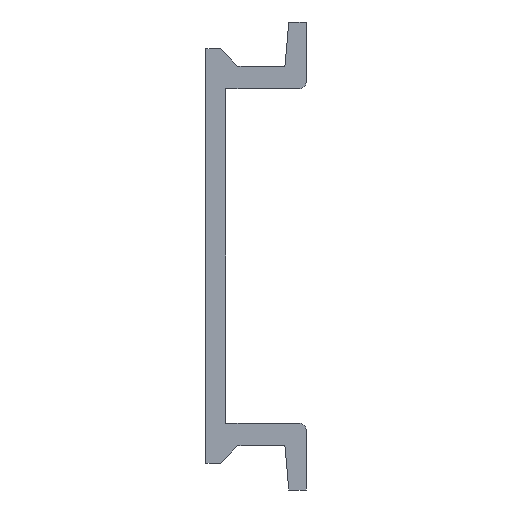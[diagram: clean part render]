
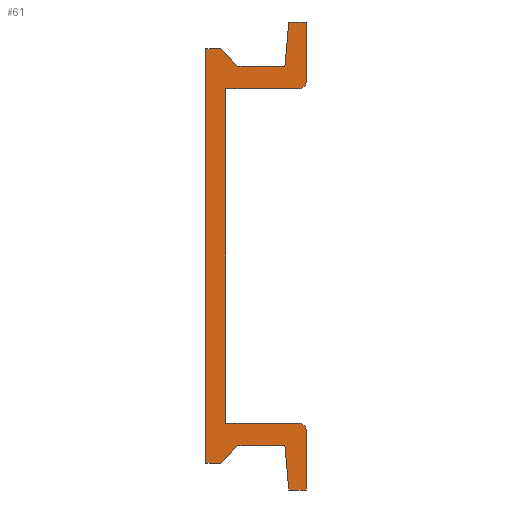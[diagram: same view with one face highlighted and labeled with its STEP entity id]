
A CAD part, left-side view. The second image highlights one B-rep face of the part: STEP entity #61.
In plain terms, the highlighted planar face has unit normal (-1, 0, 0).
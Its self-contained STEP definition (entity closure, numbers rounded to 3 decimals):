
#61=ADVANCED_FACE('',(#361),#360,.F.);
#360=PLANE('',#1088);
#361=FACE_OUTER_BOUND('',#1089,.T.);
#1085=CARTESIAN_POINT('',(0.,-8.25,21.));
#1086=DIRECTION('',(1.,0.,0.));
#1087=DIRECTION('',(0.,0.,-1.));
#1088=AXIS2_PLACEMENT_3D('',#1085,#1086,#1087);
#1089=EDGE_LOOP('',(#1598,#1599,#1600,#1601,#1602,#1603,#1604,#1605,#1606,#1607,#1608,#1609,#1610,#1611,#1612,#1613,#1614,#1615));
#1598=ORIENTED_EDGE('',*,*,#1855,.T.);
#1599=ORIENTED_EDGE('',*,*,#1859,.T.);
#1600=ORIENTED_EDGE('',*,*,#2023,.T.);
#1601=ORIENTED_EDGE('',*,*,#2020,.T.);
#1602=ORIENTED_EDGE('',*,*,#2017,.T.);
#1603=ORIENTED_EDGE('',*,*,#2014,.T.);
#1604=ORIENTED_EDGE('',*,*,#2011,.T.);
#1605=ORIENTED_EDGE('',*,*,#2008,.T.);
#1606=ORIENTED_EDGE('',*,*,#2005,.T.);
#1607=ORIENTED_EDGE('',*,*,#2002,.T.);
#1608=ORIENTED_EDGE('',*,*,#1941,.T.);
#1609=ORIENTED_EDGE('',*,*,#1938,.T.);
#1610=ORIENTED_EDGE('',*,*,#1935,.T.);
#1611=ORIENTED_EDGE('',*,*,#1932,.T.);
#1612=ORIENTED_EDGE('',*,*,#1929,.T.);
#1613=ORIENTED_EDGE('',*,*,#1926,.T.);
#1614=ORIENTED_EDGE('',*,*,#1923,.T.);
#1615=ORIENTED_EDGE('',*,*,#1920,.T.);
#1855=EDGE_CURVE('',#2130,#2131,#2132,.T.);
#1859=EDGE_CURVE('',#2131,#2158,#2159,.T.);
#1920=EDGE_CURVE('',#2583,#2130,#2584,.T.);
#1923=EDGE_CURVE('',#2603,#2583,#2604,.T.);
#1926=EDGE_CURVE('',#2623,#2603,#2624,.T.);
#1929=EDGE_CURVE('',#2643,#2623,#2644,.T.);
#1932=EDGE_CURVE('',#2663,#2643,#2664,.T.);
#1935=EDGE_CURVE('',#2683,#2663,#2684,.T.);
#1938=EDGE_CURVE('',#2703,#2683,#2704,.T.);
#1941=EDGE_CURVE('',#2723,#2703,#2724,.T.);
#2002=EDGE_CURVE('',#3148,#2723,#3149,.T.);
#2005=EDGE_CURVE('',#3168,#3148,#3169,.T.);
#2008=EDGE_CURVE('',#3188,#3168,#3189,.T.);
#2011=EDGE_CURVE('',#3208,#3188,#3209,.T.);
#2014=EDGE_CURVE('',#3228,#3208,#3229,.T.);
#2017=EDGE_CURVE('',#3248,#3228,#3249,.T.);
#2020=EDGE_CURVE('',#3268,#3248,#3269,.T.);
#2023=EDGE_CURVE('',#2158,#3268,#3288,.T.);
#2130=VERTEX_POINT('',#3671);
#2131=VERTEX_POINT('',#3672);
#2132=LINE('',#3673,#3674);
#2158=VERTEX_POINT('',#3687);
#2159=LINE('',#3688,#3689);
#2583=VERTEX_POINT('',#3958);
#2584=CIRCLE('',#3962,0.5);
#2603=VERTEX_POINT('',#3971);
#2604=LINE('',#3972,#3973);
#2623=VERTEX_POINT('',#3982);
#2624=LINE('',#3983,#3984);
#2643=VERTEX_POINT('',#3993);
#2644=LINE('',#3994,#3995);
#2663=VERTEX_POINT('',#4004);
#2664=LINE('',#4005,#4006);
#2683=VERTEX_POINT('',#4015);
#2684=LINE('',#4016,#4017);
#2703=VERTEX_POINT('',#4026);
#2704=LINE('',#4027,#4028);
#2723=VERTEX_POINT('',#4037);
#2724=LINE('',#4038,#4039);
#3148=VERTEX_POINT('',#4308);
#3149=LINE('',#4309,#4310);
#3168=VERTEX_POINT('',#4319);
#3169=LINE('',#4320,#4321);
#3188=VERTEX_POINT('',#4330);
#3189=LINE('',#4331,#4332);
#3208=VERTEX_POINT('',#4341);
#3209=LINE('',#4342,#4343);
#3228=VERTEX_POINT('',#4352);
#3229=LINE('',#4353,#4354);
#3248=VERTEX_POINT('',#4363);
#3249=LINE('',#4364,#4365);
#3268=VERTEX_POINT('',#4374);
#3269=CIRCLE('',#4378,0.5);
#3288=LINE('',#4387,#4388);
#3671=CARTESIAN_POINT('',(0.,-7.,-12.5));
#3672=CARTESIAN_POINT('',(0.,-1.5,-12.5));
#3673=CARTESIAN_POINT('',(0.,-7.,-12.5));
#3674=VECTOR('',#3675,5.5);
#3675=DIRECTION('',(0.,1.,0.));
#3687=CARTESIAN_POINT('',(0.,-1.5,12.5));
#3688=CARTESIAN_POINT('',(0.,-1.5,-12.5));
#3689=VECTOR('',#3690,25.);
#3690=DIRECTION('',(0.,0.,1.));
#3958=CARTESIAN_POINT('',(0.,-7.5,-13.));
#3959=CARTESIAN_POINT('',(0.,-7.,-13.));
#3960=DIRECTION('',(-1.,0.,0.));
#3961=DIRECTION('',(0.,0.,1.));
#3962=AXIS2_PLACEMENT_3D('',#3959,#3960,#3961);
#3971=CARTESIAN_POINT('',(0.,-7.5,-17.5));
#3972=CARTESIAN_POINT('',(0.,-7.5,-17.5));
#3973=VECTOR('',#3974,4.5);
#3974=DIRECTION('',(0.,0.,1.));
#3982=CARTESIAN_POINT('',(0.,-6.2,-17.5));
#3983=CARTESIAN_POINT('',(0.,-6.2,-17.5));
#3984=VECTOR('',#3985,1.3);
#3985=DIRECTION('',(0.,-1.,0.));
#3993=CARTESIAN_POINT('',(0.,-5.911,-14.2));
#3994=CARTESIAN_POINT('',(0.,-5.911,-14.2));
#3995=VECTOR('',#3996,3.313);
#3996=DIRECTION('',(0.,-0.087,-0.996));
#4004=CARTESIAN_POINT('',(0.,-2.4,-14.2));
#4005=CARTESIAN_POINT('',(0.,-2.4,-14.2));
#4006=VECTOR('',#4007,3.511);
#4007=DIRECTION('',(0.,-1.,0.));
#4015=CARTESIAN_POINT('',(0.,-1.1,-15.5));
#4016=CARTESIAN_POINT('',(0.,-1.1,-15.5));
#4017=VECTOR('',#4018,1.838);
#4018=DIRECTION('',(0.,-0.707,0.707));
#4026=CARTESIAN_POINT('',(0.,0.,-15.5));
#4027=CARTESIAN_POINT('',(0.,0.,-15.5));
#4028=VECTOR('',#4029,1.1);
#4029=DIRECTION('',(0.,-1.,0.));
#4037=CARTESIAN_POINT('',(0.,0.,15.5));
#4038=CARTESIAN_POINT('',(0.,0.,15.5));
#4039=VECTOR('',#4040,31.);
#4040=DIRECTION('',(0.,0.,-1.));
#4308=CARTESIAN_POINT('',(0.,-1.1,15.5));
#4309=CARTESIAN_POINT('',(0.,-1.1,15.5));
#4310=VECTOR('',#4311,1.1);
#4311=DIRECTION('',(0.,1.,0.));
#4319=CARTESIAN_POINT('',(0.,-2.4,14.2));
#4320=CARTESIAN_POINT('',(0.,-2.4,14.2));
#4321=VECTOR('',#4322,1.838);
#4322=DIRECTION('',(0.,0.707,0.707));
#4330=CARTESIAN_POINT('',(0.,-5.911,14.2));
#4331=CARTESIAN_POINT('',(0.,-5.911,14.2));
#4332=VECTOR('',#4333,3.511);
#4333=DIRECTION('',(0.,1.,0.));
#4341=CARTESIAN_POINT('',(0.,-6.2,17.5));
#4342=CARTESIAN_POINT('',(0.,-6.2,17.5));
#4343=VECTOR('',#4344,3.313);
#4344=DIRECTION('',(0.,0.087,-0.996));
#4352=CARTESIAN_POINT('',(0.,-7.5,17.5));
#4353=CARTESIAN_POINT('',(0.,-7.5,17.5));
#4354=VECTOR('',#4355,1.3);
#4355=DIRECTION('',(0.,1.,0.));
#4363=CARTESIAN_POINT('',(0.,-7.5,13.));
#4364=CARTESIAN_POINT('',(0.,-7.5,13.));
#4365=VECTOR('',#4366,4.5);
#4366=DIRECTION('',(0.,0.,1.));
#4374=CARTESIAN_POINT('',(0.,-7.,12.5));
#4375=CARTESIAN_POINT('',(0.,-7.,13.));
#4376=DIRECTION('',(-1.,0.,0.));
#4377=DIRECTION('',(0.,0.,1.));
#4378=AXIS2_PLACEMENT_3D('',#4375,#4376,#4377);
#4387=CARTESIAN_POINT('',(0.,-1.5,12.5));
#4388=VECTOR('',#4389,5.5);
#4389=DIRECTION('',(0.,-1.,0.));
